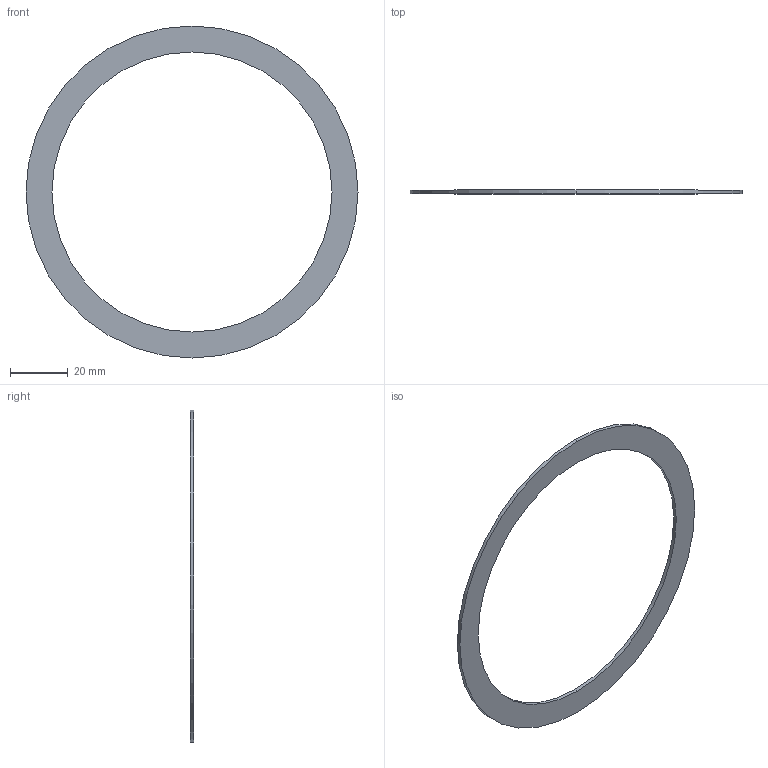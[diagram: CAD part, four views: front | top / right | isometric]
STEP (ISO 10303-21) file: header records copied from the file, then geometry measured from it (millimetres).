
FILE_DESCRIPTION (( 'STEP AP214' ), '1' );
FILE_NAME ('P-01004 - Sink Mount Drain Gasket BOTTOM - v2.1.2.STEP', '2026-06-12T21:54:52', ( '' ), ( '' ), 'SwSTEP 2.0', 'SolidWorks 2023', '' );
FILE_SCHEMA (( 'AUTOMOTIVE_DESIGN' ));
Length unit declared in the file: inch
Products named in the file (1): P-01004 - Sink Mount Drain Gasket BOTTOM - v2.1.2
Bounding box: 115 x 1.25 x 115 mm (x, y, z)
Volume: 3746.3 mm3; surface area: 6826.7 mm2
Topology: 1 solids, 1 shells, 6 faces, 12 edges, 8 vertices
Faces by surface type: cylinder 4, plane 2
Entity records: 195 total; most frequent: DIRECTION 34, CARTESIAN_POINT 27, ORIENTED_EDGE 24, AXIS2_PLACEMENT_3D 15, EDGE_CURVE 12, EDGE_LOOP 8, CIRCLE 8, VERTEX_POINT 8
